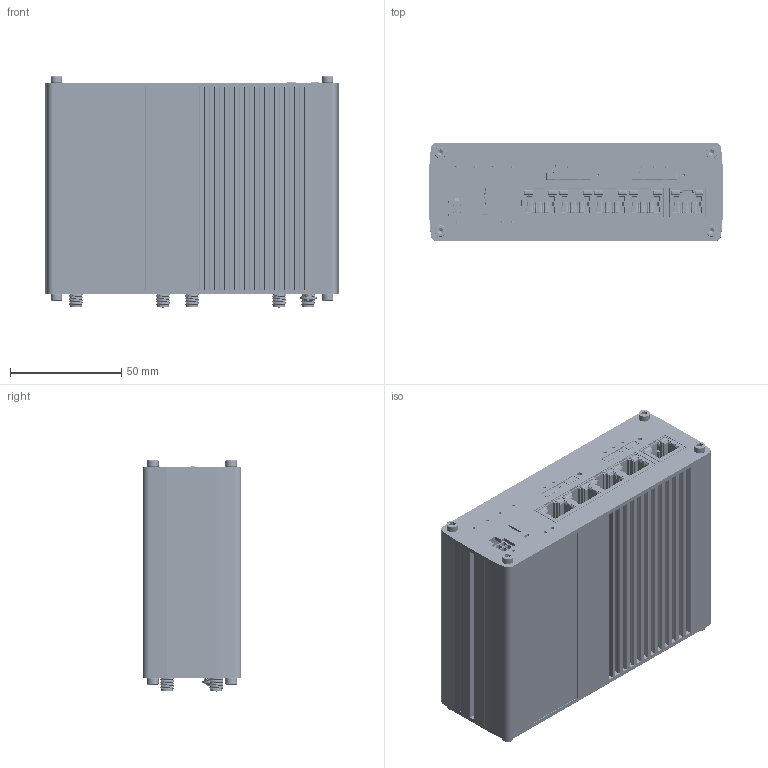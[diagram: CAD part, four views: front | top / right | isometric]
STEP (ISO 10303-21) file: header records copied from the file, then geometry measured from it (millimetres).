
FILE_DESCRIPTION (( 'STEP AP214' ), '1' );
FILE_NAME ('0636_RUTM16AMBK_01_without_press.STEP', '2025-12-12T07:22:46', ( '' ), ( '' ), 'SwSTEP 2.0', 'SolidWorks 2024', '' );
FILE_SCHEMA (( 'AUTOMOTIVE_DESIGN' ));
Length unit declared in the file: millimetre
Products named in the file (12): 0186_RUTM55HXBKX_02; RUTM54_MAIN_v4.0_3D_RUTM16; Poveržlė DIN6798 A 3.2 Zn; 0637_RUTM16PFBK_01_Without silkscreen; 0130_ALXXXDFX0SCX_01_Simple; 0361AAAS08ATE; 0204_AllXXXCX00X_01_M3х10; 0638_RUTM16PRBK_01_Without silkscreen; RUTM54_RF_v4.0_3D_RUTM16; 0056_ALXXXDCX0BCX_02; 0189_RUTM55HXBKT_02; 0636_RUTM16AMBK_01_without_press
Assembly tree (19 placements, depth 3):
  0636_RUTM16AMBK_01_without_press
    0189_RUTM55HXBKT_02
      0186_RUTM55HXBKX_02
    0637_RUTM16PFBK_01_Without silkscreen
    0638_RUTM16PRBK_01_Without silkscreen
    0204_AllXXXCX00X_01_M3х10
    0056_ALXXXDCX0BCX_02
    Poveržlė DIN6798 A 3.2 Zn
    0130_ALXXXDFX0SCX_01_Simple  x8
    0361AAAS08ATE  x2
    RUTM54_RF_v4.0_3D_RUTM16
    RUTM54_MAIN_v4.0_3D_RUTM16
Bounding box: 132 x 44.2 x 104 mm (x, y, z)
Volume: 161380.7 mm3; surface area: 179793.8 mm2
Topology: 76 solids, 79 shells, 8612 faces, 23795 edges, 15467 vertices
Faces by surface type: plane 4904, cylinder 3092, bspline 442, torus 72, cone 57, sphere 45
Entity records: 285487 total; most frequent: CARTESIAN_POINT 85632, ORIENTED_EDGE 44692, DIRECTION 36618, EDGE_CURVE 22346, VERTEX_POINT 14612, VECTOR 13612, LINE 13612, AXIS2_PLACEMENT_3D 11503
